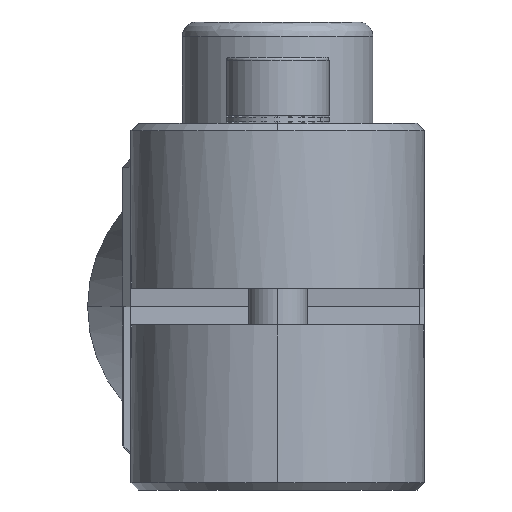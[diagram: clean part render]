
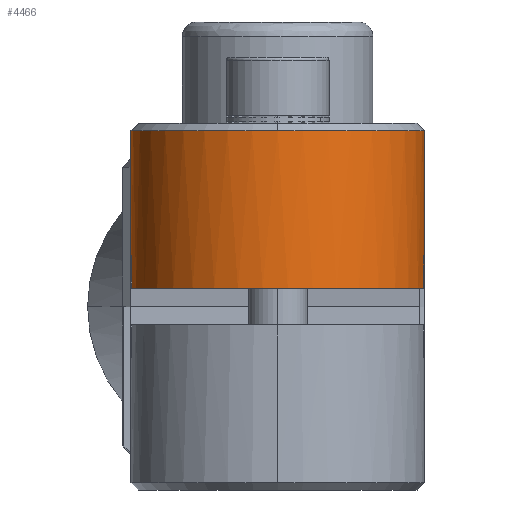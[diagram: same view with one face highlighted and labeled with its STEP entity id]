
A CAD part, left-side view. The second image highlights one B-rep face of the part: STEP entity #4466.
In plain terms, the highlighted cylindrical face has radius 10 mm (diameter 20 mm), a partial arc.
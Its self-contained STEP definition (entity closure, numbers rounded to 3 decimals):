
#87 = DIRECTION ( 'NONE',  ( -1., 0., 0. ) ) ;
#1447 = VERTEX_POINT ( 'NONE', #10180 ) ;
#2218 = VECTOR ( 'NONE', #7571, 1000. ) ;
#4077 = B_SPLINE_CURVE_WITH_KNOTS ( 'NONE', 3,
 ( #6600, #20091, #22347, #8844, #24605, #11120 ),
 .UNSPECIFIED., .F., .F.,
 ( 4, 2, 4 ),
 ( 0., 0.002, 0.004 ),
 .UNSPECIFIED. ) ;
#4365 = AXIS2_PLACEMENT_3D ( 'NONE', #26911, #24637, #27007 ) ;
#4466 = ADVANCED_FACE ( 'NONE', ( #13113 ), #28250, .T. ) ;
#4648 = AXIS2_PLACEMENT_3D ( 'NONE', #27055, #13560, #87 ) ;
#4700 = VERTEX_POINT ( 'NONE', #21301 ) ;
#5154 = VECTOR ( 'NONE', #25285, 1000. ) ;
#5326 = CARTESIAN_POINT ( 'NONE',  ( -19.511, 15.953, 0. ) ) ;
#5552 = CIRCLE ( 'NONE', #28592, 10. ) ;
#5846 = VERTEX_POINT ( 'NONE', #12578 ) ;
#6067 = ORIENTED_EDGE ( 'NONE', *, *, #23682, .F. ) ;
#6181 = EDGE_CURVE ( 'NONE', #1447, #4700, #28407, .T. ) ;
#6600 = CARTESIAN_POINT ( 'NONE',  ( -19.511, 15.953, 5.009 ) ) ;
#7542 = EDGE_CURVE ( 'NONE', #23417, #10055, #26891, .T. ) ;
#7571 = DIRECTION ( 'NONE',  ( 0., 0., 1. ) ) ;
#7759 = CARTESIAN_POINT ( 'NONE',  ( -19.511, 25.953, 12. ) ) ;
#8844 = CARTESIAN_POINT ( 'NONE',  ( -20.541, 16.004, 2.562 ) ) ;
#9954 = CARTESIAN_POINT ( 'NONE',  ( -19.945, 35.945, 3.36 ) ) ;
#10045 = DIRECTION ( 'NONE',  ( -1., 0., 0. ) ) ;
#10055 = VERTEX_POINT ( 'NONE', #27534 ) ;
#10180 = CARTESIAN_POINT ( 'NONE',  ( -19.511, 35.953, 4.359 ) ) ;
#11120 = CARTESIAN_POINT ( 'NONE',  ( -20.773, 16.033, 1.25 ) ) ;
#11555 = AXIS2_PLACEMENT_3D ( 'NONE', #7759, #23525, #10045 ) ;
#11886 = ORIENTED_EDGE ( 'NONE', *, *, #6181, .F. ) ;
#12231 = CARTESIAN_POINT ( 'NONE',  ( -19.511, 35.953, 4.359 ) ) ;
#12535 = VERTEX_POINT ( 'NONE', #14544 ) ;
#12578 = CARTESIAN_POINT ( 'NONE',  ( -20.773, 16.033, 1.25 ) ) ;
#12981 = CARTESIAN_POINT ( 'NONE',  ( -19.511, 15.953, 5.009 ) ) ;
#13113 = FACE_OUTER_BOUND ( 'NONE', #26871, .T. ) ;
#13419 = CARTESIAN_POINT ( 'NONE',  ( -19.511, 25.953, 1.25 ) ) ;
#13560 = DIRECTION ( 'NONE',  ( 0., 0., 1. ) ) ;
#13871 = ORIENTED_EDGE ( 'NONE', *, *, #17382, .F. ) ;
#14544 = CARTESIAN_POINT ( 'NONE',  ( -20.433, 35.911, 1.25 ) ) ;
#15083 = ORIENTED_EDGE ( 'NONE', *, *, #28469, .F. ) ;
#15673 = DIRECTION ( 'NONE',  ( 0., 1., 0. ) ) ;
#16802 = ORIENTED_EDGE ( 'NONE', *, *, #25258, .T. ) ;
#17382 = EDGE_CURVE ( 'NONE', #4700, #23417, #28601, .T. ) ;
#18879 = EDGE_CURVE ( 'NONE', #5846, #12535, #5552, .T. ) ;
#18900 = CARTESIAN_POINT ( 'NONE',  ( -20.433, 35.911, 1.25 ) ) ;
#19769 = CARTESIAN_POINT ( 'NONE',  ( -29.511, 25.953, 12. ) ) ;
#20091 = CARTESIAN_POINT ( 'NONE',  ( -19.843, 15.953, 4.431 ) ) ;
#20219 = LINE ( 'NONE', #5326, #2218 ) ;
#21301 = CARTESIAN_POINT ( 'NONE',  ( -19.511, 35.953, 12. ) ) ;
#22347 = CARTESIAN_POINT ( 'NONE',  ( -20.117, 15.969, 3.822 ) ) ;
#23410 = VERTEX_POINT ( 'NONE', #12981 ) ;
#23417 = VERTEX_POINT ( 'NONE', #19769 ) ;
#23439 = CARTESIAN_POINT ( 'NONE',  ( -20.253, 35.927, 2.324 ) ) ;
#23525 = DIRECTION ( 'NONE',  ( 0., 0., 1. ) ) ;
#23682 = EDGE_CURVE ( 'NONE', #12535, #1447, #25187, .T. ) ;
#24605 = CARTESIAN_POINT ( 'NONE',  ( -20.69, 16.023, 1.911 ) ) ;
#24637 = DIRECTION ( 'NONE',  ( 0., 0., -1. ) ) ;
#25089 = CARTESIAN_POINT ( 'NONE',  ( -19.511, 35.953, 6.625 ) ) ;
#25187 = B_SPLINE_CURVE_WITH_KNOTS ( 'NONE', 3,
 ( #18900, #27867, #23439, #9954, #25698, #12231 ),
 .UNSPECIFIED., .F., .F.,
 ( 4, 2, 4 ),
 ( 0., 0.002, 0.003 ),
 .UNSPECIFIED. ) ;
#25247 = ORIENTED_EDGE ( 'NONE', *, *, #18879, .F. ) ;
#25258 = EDGE_CURVE ( 'NONE', #23410, #10055, #20219, .T. ) ;
#25285 = DIRECTION ( 'NONE',  ( 0., 0., 1. ) ) ;
#25698 = CARTESIAN_POINT ( 'NONE',  ( -19.75, 35.953, 3.866 ) ) ;
#26871 = EDGE_LOOP ( 'NONE', ( #13871, #11886, #6067, #25247, #15083, #16802, #28475 ) ) ;
#26891 = CIRCLE ( 'NONE', #4648, 10. ) ;
#26911 = CARTESIAN_POINT ( 'NONE',  ( -19.511, 25.953, 12. ) ) ;
#27007 = DIRECTION ( 'NONE',  ( 0., 1., 0. ) ) ;
#27055 = CARTESIAN_POINT ( 'NONE',  ( -19.511, 25.953, 12. ) ) ;
#27534 = CARTESIAN_POINT ( 'NONE',  ( -19.511, 15.953, 12. ) ) ;
#27867 = CARTESIAN_POINT ( 'NONE',  ( -20.364, 35.917, 1.793 ) ) ;
#28250 = CYLINDRICAL_SURFACE ( 'NONE', #4365, 10. ) ;
#28407 = LINE ( 'NONE', #25089, #5154 ) ;
#28469 = EDGE_CURVE ( 'NONE', #23410, #5846, #4077, .T. ) ;
#28475 = ORIENTED_EDGE ( 'NONE', *, *, #7542, .F. ) ;
#28592 = AXIS2_PLACEMENT_3D ( 'NONE', #13419, #29173, #15673 ) ;
#28601 = CIRCLE ( 'NONE', #11555, 10. ) ;
#29173 = DIRECTION ( 'NONE',  ( 0., 0., -1. ) ) ;
